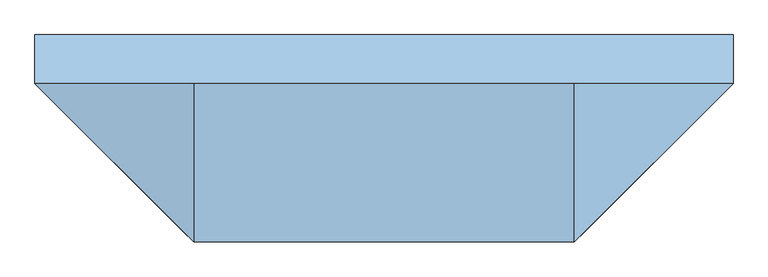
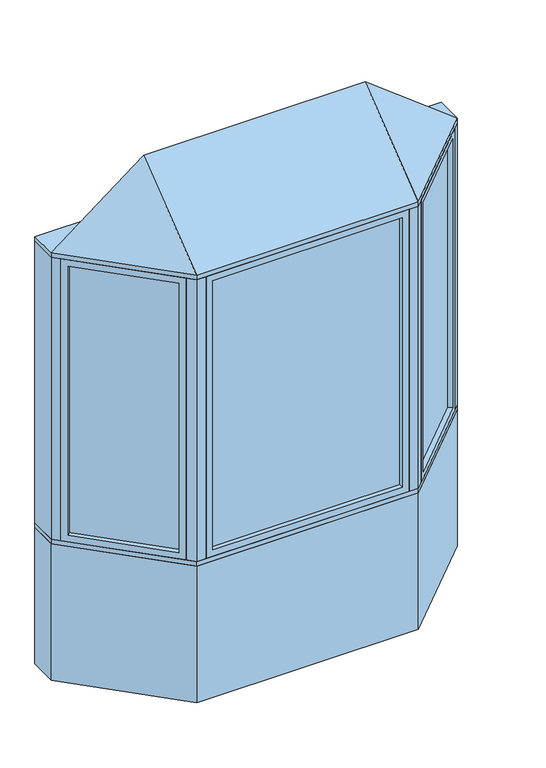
"""IFC4 building model written with IfcOpenShell, lengths in millimetres: window geometry, Pollard_Windows_Tudor Casement Bows and Bays : AML-BAY 45 AFR0516-12-600."""

from ifc_helpers import new_model, si_unit, frame, origin, origin_with_axes, place, context, project, spatial, polyline, outline, extrude, faceted_brep, source, transform, mapped, element, save


def window_fa37bd7c(model_context):
    return source(origin(), model_context, "Body", "SolidModel", [
        extrude(outline(polyline([(1024.0964271, -104.763169), (628.474814, -500.3847822), (624.8827115, -496.7926797), (1020.5043247, -101.1710666), (1024.0964271, -104.763169)])), frame((0.0, 0.0, 823.1628), z_axis=(0.0, 0.0, 1.0), x_axis=(1.0, 0.0, 0.0)), (0.0, 0.0, 1.0), 1553.6704),
        faceted_brep([(1015.116171, -113.7434252, 835.8628), (1033.0766833, -131.7039374, 835.8628), (1033.0766833, -131.7039374, 2364.1332), (1015.116171, -113.7434252, 2364.1332), (1020.5043247, -101.1710666, 823.1628), (1024.0964271, -104.763169, 823.1628), (1024.0964271, -104.763169, 2376.8332), (1020.5043247, -101.1710666, 2376.8332), (993.5635563, -92.1908105, 835.8628), (1011.5240686, -110.1513227, 835.8628), (1011.5240686, -110.1513227, 2364.1332), (993.5635563, -92.1908105, 2364.1332), (1058.4369265, -106.3436941, 799.998), (1018.9237996, -66.8305672, 799.998), (1018.9237996, -66.8305672, 2399.998), (1058.4369265, -106.3436941, 2399.998), (655.4155823, -509.3650383, 2364.1332), (637.4550701, -491.4045261, 2364.1332), (628.474814, -500.3847822, 2376.8332), (624.8827115, -496.7926797, 2376.8332), (633.8629677, -487.8124236, 2364.1332), (615.9024554, -469.8519114, 2364.1332), (590.5422121, -495.2121547, 2399.998), (630.0553391, -534.7252816, 2399.998), (655.4155823, -509.3650383, 835.8628), (637.4550701, -491.4045261, 835.8628), (628.474814, -500.3847822, 823.1628), (624.8827115, -496.7926797, 823.1628), (633.8629677, -487.8124236, 835.8628), (615.9024554, -469.8519114, 835.8628), (590.5422121, -495.2121547, 799.998), (630.0553391, -534.7252816, 799.998)], [[[0, 1, 2, 3]], [[4, 5, 6, 7]], [[8, 9, 10, 11]], [[12, 13, 14, 15]], [[3, 2, 16, 17]], [[7, 6, 18, 19]], [[11, 10, 20, 21]], [[15, 14, 22, 23]], [[17, 16, 24, 25]], [[19, 18, 26, 27]], [[21, 20, 28, 29]], [[23, 22, 30, 31]], [[25, 24, 1, 0]], [[5, 26, 18, 6], [3, 17, 25, 0]], [[27, 26, 5, 4]], [[7, 19, 27, 4], [9, 28, 20, 10]], [[29, 28, 9, 8]], [[13, 30, 22, 14], [11, 21, 29, 8]], [[31, 30, 13, 12]], [[15, 23, 31, 12], [1, 24, 16, 2]]]),
        extrude(outline(polyline([(-628.474814, -500.3847822), (-1024.0964271, -104.763169), (-1020.5043247, -101.1710666), (-624.8827115, -496.7926797), (-628.474814, -500.3847822)])), frame((0.0, 0.0, 823.1628), z_axis=(0.0, 0.0, 1.0), x_axis=(1.0, 0.0, 0.0)), (0.0, 0.0, 1.0), 1553.6704),
        faceted_brep([(-633.8629677, -487.8124236, 2364.1332), (-615.9024554, -469.8519114, 2364.1332), (-615.9024554, -469.8519114, 835.8628), (-633.8629677, -487.8124236, 835.8628), (-628.474814, -500.3847822, 2376.8332), (-624.8827115, -496.7926797, 2376.8332), (-624.8827115, -496.7926797, 823.1628), (-628.474814, -500.3847822, 823.1628), (-655.4155823, -509.3650383, 2364.1332), (-637.4550701, -491.4045261, 2364.1332), (-637.4550701, -491.4045261, 835.8628), (-655.4155823, -509.3650383, 835.8628), (-590.5422121, -495.2121547, 2399.998), (-630.0553391, -534.7252816, 2399.998), (-630.0553391, -534.7252816, 799.998), (-590.5422121, -495.2121547, 799.998), (-993.5635563, -92.1908105, 835.8628), (-1011.5240686, -110.1513227, 835.8628), (-1020.5043247, -101.1710666, 823.1628), (-1024.0964271, -104.763169, 823.1628), (-1015.116171, -113.7434252, 835.8628), (-1033.0766833, -131.7039374, 835.8628), (-1058.4369265, -106.3436941, 799.998), (-1018.9237996, -66.8305672, 799.998), (-993.5635563, -92.1908105, 2364.1332), (-1011.5240686, -110.1513227, 2364.1332), (-1020.5043247, -101.1710666, 2376.8332), (-1024.0964271, -104.763169, 2376.8332), (-1015.116171, -113.7434252, 2364.1332), (-1033.0766833, -131.7039374, 2364.1332), (-1058.4369265, -106.3436941, 2399.998), (-1018.9237996, -66.8305672, 2399.998)], [[[0, 1, 2, 3]], [[4, 5, 6, 7]], [[8, 9, 10, 11]], [[12, 13, 14, 15]], [[3, 2, 16, 17]], [[7, 6, 18, 19]], [[11, 10, 20, 21]], [[15, 14, 22, 23]], [[17, 16, 24, 25]], [[19, 18, 26, 27]], [[21, 20, 28, 29]], [[23, 22, 30, 31]], [[15, 23, 31, 12], [1, 24, 16, 2]], [[25, 24, 1, 0]], [[5, 26, 18, 6], [3, 17, 25, 0]], [[27, 26, 5, 4]], [[7, 19, 27, 4], [9, 28, 20, 10]], [[29, 28, 9, 8]], [[13, 30, 22, 14], [11, 21, 29, 8]], [[31, 30, 13, 12]]]),
        extrude(outline(polyline([(521.5352, -544.6806207), (-521.5352, -544.6806207), (-521.5352, -539.6006207), (521.5352, -539.6006207), (521.5352, -544.6806207)])), frame((0.0, 0.0, 823.1628), z_axis=(0.0, 0.0, 1.0), x_axis=(1.0, 0.0, 0.0)), (0.0, 0.0, 1.0), 1553.6704),
        faceted_brep([(508.8352, -544.6806207, 835.8628), (508.8352, -570.0806207, 835.8628), (508.8352, -570.0806207, 2364.1332), (508.8352, -544.6806207, 2364.1332), (521.5352, -539.6006207, 823.1628), (521.5352, -544.6806207, 823.1628), (521.5352, -544.6806207, 2376.8332), (521.5352, -539.6006207, 2376.8332), (508.8352, -514.2006207, 835.8628), (508.8352, -539.6006207, 835.8628), (508.8352, -539.6006207, 2364.1332), (508.8352, -514.2006207, 2364.1332), (544.7, -570.0806207, 799.998), (544.7, -514.2006207, 799.998), (544.7, -514.2006207, 2399.998), (544.7, -570.0806207, 2399.998), (-508.8352, -570.0806207, 2364.1332), (-508.8352, -544.6806207, 2364.1332), (-521.5352, -544.6806207, 2376.8332), (-521.5352, -539.6006207, 2376.8332), (-508.8352, -539.6006207, 2364.1332), (-508.8352, -514.2006207, 2364.1332), (-544.7, -514.2006207, 2399.998), (-544.7, -570.0806207, 2399.998), (-508.8352, -570.0806207, 835.8628), (-508.8352, -544.6806207, 835.8628), (-521.5352, -544.6806207, 823.1628), (-521.5352, -539.6006207, 823.1628), (-508.8352, -539.6006207, 835.8628), (-508.8352, -514.2006207, 835.8628), (-544.7, -514.2006207, 799.998), (-544.7, -570.0806207, 799.998)], [[[0, 1, 2, 3]], [[4, 5, 6, 7]], [[8, 9, 10, 11]], [[12, 13, 14, 15]], [[3, 2, 16, 17]], [[7, 6, 18, 19]], [[11, 10, 20, 21]], [[15, 14, 22, 23]], [[17, 16, 24, 25]], [[19, 18, 26, 27]], [[21, 20, 28, 29]], [[23, 22, 30, 31]], [[15, 23, 31, 12], [1, 24, 16, 2]], [[25, 24, 1, 0]], [[5, 26, 18, 6], [3, 17, 25, 0]], [[27, 26, 5, 4]], [[7, 19, 27, 4], [9, 28, 20, 10]], [[29, 28, 9, 8]], [[13, 30, 22, 14], [11, 21, 29, 8]], [[31, 30, 13, 12]]]),
        faceted_brep([(1090.0, -74.7806207, 2425.398), (594.7, -570.0806207, 2425.398), (-594.7, -570.0806207, 2425.398), (-1090.0, -74.7806207, 2425.398), (-594.7, -74.7806207, 2806.398), (594.7, -74.7806207, 2806.398)], [[[0, 1, 2, 3]], [[3, 2, 4]], [[2, 1, 5, 4]], [[1, 0, 5]], [[0, 3, 4, 5]]]),
        extrude(outline(polyline([(-1090.0, 77.6193793), (1090.0, 77.6193793), (1090.0, -74.7806207), (594.7, -570.0806207), (-594.7, -570.0806207), (-1090.0, -74.7806207), (-1090.0, 77.6193793)])), frame((0.0, 0.0, 2399.998), z_axis=(0.0, 0.0, 1.0), x_axis=(1.0, 0.0, 0.0)), (0.0, 0.0, 1.0), 25.4),
        extrude(outline(polyline([(-1090.0, -74.7806207), (-1090.0, 77.6193793), (-1026.8738531, 77.6193793), (-1026.8738531, -74.7806207), (-1058.4369265, -106.3436941), (-1090.0, -74.7806207)])), frame((0.0, 0.0, 799.998), z_axis=(0.0, 0.0, 1.0), x_axis=(1.0, 0.0, 0.0)), (0.0, 0.0, 1.0), 1600.0),
        extrude(outline(polyline([(1090.0, 77.6193793), (1090.0, -74.7806207), (1058.4369265, -106.3436941), (1026.8738531, -74.7806207), (1026.8738531, 77.6193793), (1090.0, 77.6193793)])), frame((0.0, 0.0, 799.998), z_axis=(0.0, 0.0, 1.0), x_axis=(1.0, 0.0, 0.0)), (0.0, 0.0, 1.0), 1600.0),
        extrude(outline(polyline([(594.7, -570.0806207), (544.7, -570.0806207), (544.7, -520.0806207), (573.9893219, -520.0806207), (594.7, -499.3699425), (630.0553391, -534.7252816), (594.7, -570.0806207)])), frame((0.0, 0.0, 799.998), z_axis=(0.0, 0.0, 1.0), x_axis=(1.0, 0.0, 0.0)), (0.0, 0.0, 1.0), 1600.0),
        extrude(outline(polyline([(-594.7, -570.0806207), (-630.0553391, -534.7252816), (-594.7, -499.3699425), (-573.9893219, -520.0806207), (-544.7, -520.0806207), (-544.7, -570.0806207), (-594.7, -570.0806207)])), frame((0.0, 0.0, 799.998), z_axis=(0.0, 0.0, 1.0), x_axis=(1.0, 0.0, 0.0)), (0.0, 0.0, 1.0), 1600.0),
        extrude(outline(polyline([(-594.7, -570.0806207), (-1090.0, -74.7806207), (-1090.0, 77.6193793), (-1026.8738531, 77.6193793), (-531.5738531, -417.6806207), (531.5738531, -417.6806207), (1026.8738531, 77.6193793), (1090.0, 77.6193793), (1090.0, -74.7806207), (594.7, -570.0806207), (-594.7, -570.0806207)])), frame((0.0, 0.0, 774.598), z_axis=(0.0, 0.0, 1.0), x_axis=(1.0, 0.0, 0.0)), (0.0, 0.0, 1.0), 25.4),
        extrude(outline(polyline([(-1090.0, -74.7806207), (-1090.0, 77.6193793), (-1026.8738531, 77.6193793), (-531.5738531, -417.6806207), (531.5738531, -417.6806207), (1026.8738531, 77.6193793), (1090.0, 77.6193793), (1090.0, -74.7806207), (594.7, -570.0806207), (-594.7, -570.0806207), (-1090.0, -74.7806207)])), origin_with_axes(), (0.0, 0.0, 1.0), 774.598),
    ])


if __name__ == "__main__":
    model = new_model("IFC4")
    model_context = context("Model", 3, world=origin())
    ifc_project = project(units=[si_unit("LENGTHUNIT", "METRE", prefix="MILLI")], contexts=[model_context])
    site = spatial("IfcSite", under=ifc_project)
    building = spatial("IfcBuilding", under=site)
    placement = place(None, origin())
    window_shape = window_fa37bd7c(model_context)
    element("IfcWindow", 1, ObjectType="Pollard_Windows_Tudor Casement Bows and Bays : AML-BAY 45 AFR0516-12-600", at=placement, inside=building, context=model_context, shape_type="MappedRepresentation", body=[
        mapped(window_shape, transform((0.0, 0.0, 0.0), x_axis=(1.0, 0.0, 0.0), y_axis=(0.0, 1.0, 0.0), z_axis=(0.0, 0.0, 1.0))),
    ])
    save(model, "model.ifc")
